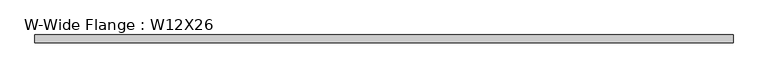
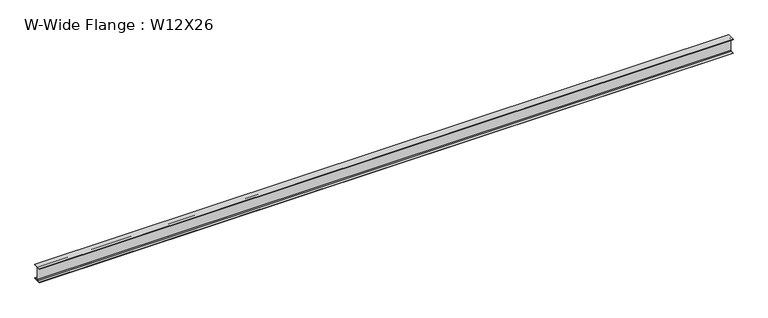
"""IFC4 building model written with IfcOpenShell, lengths in millimetres: beam geometry, W-Wide Flange : W12X26."""

from ifc_helpers import new_model, si_unit, point, frame, frame_2d, origin, place, context, project, spatial, polyline, circle_curve, trimmed, segment, composite_curve, outline, extrude, source, transform, mapped, element, save


def w_wide_flange_w12x26_f0aa8a0b(model_context):
    return source(origin(), model_context, "Body", "SweptSolid", [
        extrude(outline(composite_curve([segment(polyline([(82.4011719, -145.5539063), (82.4011719, -155.178125), (-82.4011719, -155.178125), (-82.4011719, -145.5539063), (-20.2902344, -145.5539063)]), True, "CONTINUOUS"), segment(trimmed(circle_curve(frame_2d((-20.2902344, -128.190625)), 17.3632812), [point((-20.2902344, -145.5539063))], [point((-2.9269531, -128.190625))], True, "CARTESIAN"), True, "CONTINUOUS"), segment(polyline([(-2.9269531, -128.190625), (-2.9269531, 128.190625)]), True, "CONTINUOUS"), segment(trimmed(circle_curve(frame_2d((-20.2902344, 128.190625)), 17.3632812), [point((-2.9269531, 128.190625))], [point((-20.2902344, 145.5539062))], True, "CARTESIAN"), True, "CONTINUOUS"), segment(polyline([(-20.2902344, 145.5539062), (-82.4011719, 145.5539062), (-82.4011719, 155.178125), (82.4011719, 155.178125), (82.4011719, 145.5539062), (20.2902344, 145.5539062)]), True, "CONTINUOUS"), segment(trimmed(circle_curve(frame_2d((20.2902344, 128.190625)), 17.3632812), [point((20.2902344, 145.5539062))], [point((2.9269531, 128.190625))], True, "CARTESIAN"), True, "CONTINUOUS"), segment(polyline([(2.9269531, 128.190625), (2.9269531, -128.190625)]), True, "CONTINUOUS"), segment(trimmed(circle_curve(frame_2d((20.2902344, -128.190625)), 17.3632812), [point((2.9269531, -128.190625))], [point((20.2902344, -145.5539063))], True, "CARTESIAN"), True, "CONTINUOUS"), segment(polyline([(20.2902344, -145.5539063), (82.4011719, -145.5539063)]), True, "CONTINUOUS")], self_intersect=False)), frame((-7315.2, 0.0, 0.0), z_axis=(1.0, 0.0, 0.0), x_axis=(0.0, 1.0, 0.0)), (0.0, 0.0, 1.0), 14482.9889312),
    ])


if __name__ == "__main__":
    model = new_model("IFC4")
    model_context = context("Model", 3, world=origin())
    ifc_project = project(units=[si_unit("LENGTHUNIT", "METRE", prefix="MILLI")], contexts=[model_context])
    site = spatial("IfcSite", under=ifc_project)
    building = spatial("IfcBuilding", under=site)
    placement = place(None, origin())
    w_wide_flange_w12x26_shape = w_wide_flange_w12x26_f0aa8a0b(model_context)
    element("IfcBeam", 1, ObjectType="W-Wide Flange : W12X26", at=placement, inside=building, context=model_context, shape_type="MappedRepresentation", body=[
        mapped(w_wide_flange_w12x26_shape, transform((0.0, 0.0, 0.0), x_axis=(1.0, 0.0, 0.0), y_axis=(0.0, 1.0, 0.0), z_axis=(0.0, 0.0, 1.0))),
    ])
    save(model, "model.ifc")
